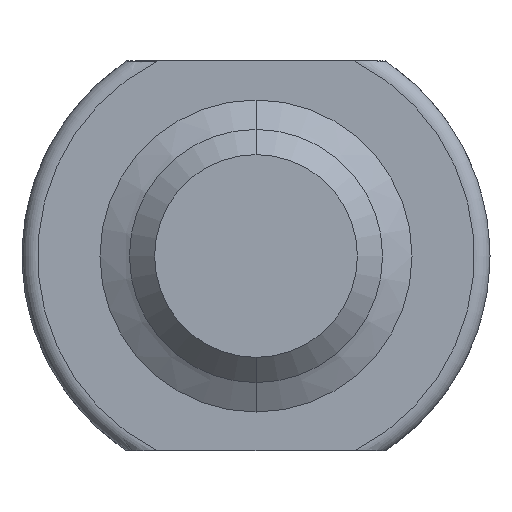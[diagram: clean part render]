
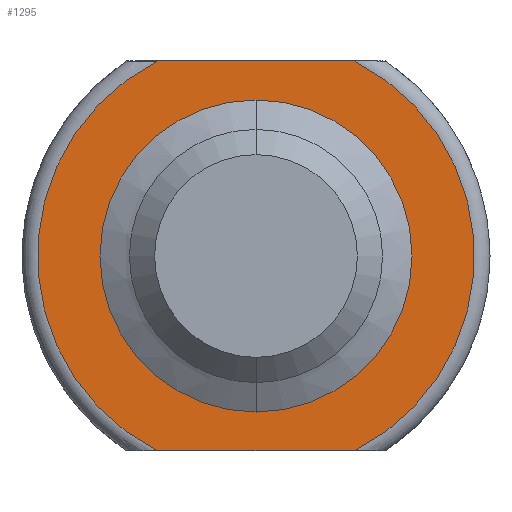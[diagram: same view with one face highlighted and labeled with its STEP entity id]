
A CAD part, front view. The second image highlights one B-rep face of the part: STEP entity #1295.
In plain terms, the highlighted planar face has unit normal (0, -1, 0).
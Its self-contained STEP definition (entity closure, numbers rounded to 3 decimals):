
#18 = EDGE_CURVE ( 'NONE', #808, #152, #272, .T. ) ;
#53 = EDGE_CURVE ( 'NONE', #1306, #950, #1122, .T. ) ;
#87 = DIRECTION ( 'NONE',  ( 0., 0., 1. ) ) ;
#140 = DIRECTION ( 'NONE',  ( 0., 0., 1. ) ) ;
#152 = VERTEX_POINT ( 'NONE', #1170 ) ;
#191 = VECTOR ( 'NONE', #336, 1000. ) ;
#197 = DIRECTION ( 'NONE',  ( 0., 0., -1. ) ) ;
#268 = EDGE_LOOP ( 'NONE', ( #439, #867, #405, #795 ) ) ;
#272 = CIRCLE ( 'NONE', #1174, 1.505 ) ;
#286 = DIRECTION ( 'NONE',  ( 0., -1., 0. ) ) ;
#295 = FACE_OUTER_BOUND ( 'NONE', #268, .T. ) ;
#308 = CARTESIAN_POINT ( 'NONE',  ( 0., 0., 0. ) ) ;
#336 = DIRECTION ( 'NONE',  ( 1., 0., 0. ) ) ;
#347 = CARTESIAN_POINT ( 'NONE',  ( 0., 0., 0. ) ) ;
#348 = AXIS2_PLACEMENT_3D ( 'NONE', #308, #1176, #87 ) ;
#365 = LINE ( 'NONE', #1021, #1242 ) ;
#394 = DIRECTION ( 'NONE',  ( 0., -1., 0. ) ) ;
#405 = ORIENTED_EDGE ( 'NONE', *, *, #53, .F. ) ;
#439 = ORIENTED_EDGE ( 'NONE', *, *, #1386, .F. ) ;
#483 = EDGE_LOOP ( 'NONE', ( #1181, #992 ) ) ;
#492 = CARTESIAN_POINT ( 'NONE',  ( 0., 0., 0. ) ) ;
#513 = AXIS2_PLACEMENT_3D ( 'NONE', #928, #286, #197 ) ;
#514 = CARTESIAN_POINT ( 'NONE',  ( 1.261, 0., 2.5 ) ) ;
#580 = CARTESIAN_POINT ( 'NONE',  ( 1.261, 0., -2.5 ) ) ;
#592 = EDGE_CURVE ( 'NONE', #1306, #719, #641, .T. ) ;
#638 = CIRCLE ( 'NONE', #1411, 1.505 ) ;
#641 = LINE ( 'NONE', #988, #191 ) ;
#676 = CARTESIAN_POINT ( 'NONE',  ( -1.261, 0., -2.5 ) ) ;
#703 = DIRECTION ( 'NONE',  ( -1., 0., 0. ) ) ;
#719 = VERTEX_POINT ( 'NONE', #580 ) ;
#779 = CARTESIAN_POINT ( 'NONE',  ( -1.261, 0., 2.5 ) ) ;
#795 = ORIENTED_EDGE ( 'NONE', *, *, #592, .T. ) ;
#808 = VERTEX_POINT ( 'NONE', #1375 ) ;
#824 = EDGE_CURVE ( 'NONE', #152, #808, #638, .T. ) ;
#827 = AXIS2_PLACEMENT_3D ( 'NONE', #347, #1109, #140 ) ;
#829 = PLANE ( 'NONE',  #513 ) ;
#839 = FACE_BOUND ( 'NONE', #483, .T. ) ;
#867 = ORIENTED_EDGE ( 'NONE', *, *, #1219, .T. ) ;
#913 = CIRCLE ( 'NONE', #827, 2.8 ) ;
#928 = CARTESIAN_POINT ( 'NONE',  ( 0., 0., 0. ) ) ;
#938 = DIRECTION ( 'NONE',  ( 0., 0., -1. ) ) ;
#950 = VERTEX_POINT ( 'NONE', #779 ) ;
#988 = CARTESIAN_POINT ( 'NONE',  ( 2.097, 0., -2.5 ) ) ;
#992 = ORIENTED_EDGE ( 'NONE', *, *, #18, .F. ) ;
#1021 = CARTESIAN_POINT ( 'NONE',  ( -2.097, 0., 2.5 ) ) ;
#1109 = DIRECTION ( 'NONE',  ( 0., 1., 0. ) ) ;
#1122 = CIRCLE ( 'NONE', #348, 2.8 ) ;
#1156 = DIRECTION ( 'NONE',  ( 0., -1., 0. ) ) ;
#1170 = CARTESIAN_POINT ( 'NONE',  ( 0., 0., 1.505 ) ) ;
#1174 = AXIS2_PLACEMENT_3D ( 'NONE', #1391, #1156, #938 ) ;
#1176 = DIRECTION ( 'NONE',  ( 0., 1., 0. ) ) ;
#1181 = ORIENTED_EDGE ( 'NONE', *, *, #824, .F. ) ;
#1219 = EDGE_CURVE ( 'NONE', #1226, #950, #365, .T. ) ;
#1226 = VERTEX_POINT ( 'NONE', #514 ) ;
#1242 = VECTOR ( 'NONE', #703, 1000. ) ;
#1262 = DIRECTION ( 'NONE',  ( 0., 0., -1. ) ) ;
#1295 = ADVANCED_FACE ( 'NONE', ( #839, #295 ), #829, .T. ) ;
#1306 = VERTEX_POINT ( 'NONE', #676 ) ;
#1375 = CARTESIAN_POINT ( 'NONE',  ( 0., 0., -1.505 ) ) ;
#1386 = EDGE_CURVE ( 'NONE', #1226, #719, #913, .T. ) ;
#1391 = CARTESIAN_POINT ( 'NONE',  ( 0., 0., 0. ) ) ;
#1411 = AXIS2_PLACEMENT_3D ( 'NONE', #492, #394, #1262 ) ;
